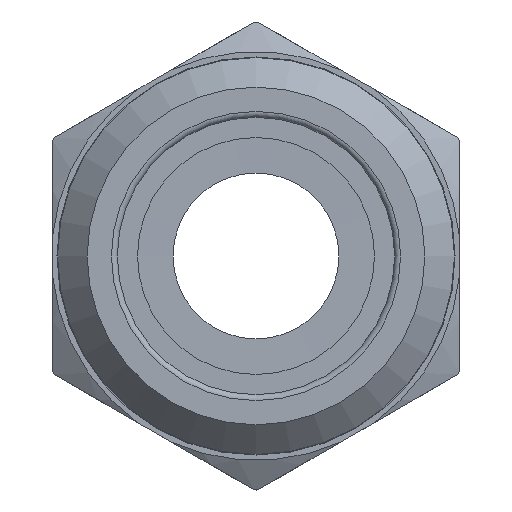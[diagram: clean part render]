
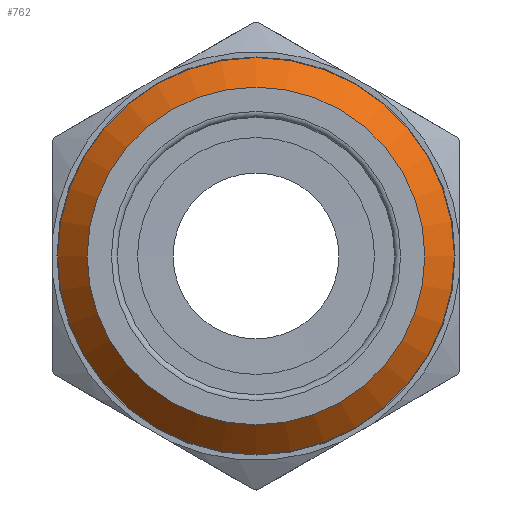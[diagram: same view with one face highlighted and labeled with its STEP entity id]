
A CAD part, front view. The second image highlights one B-rep face of the part: STEP entity #762.
In plain terms, the highlighted conical face has half-angle 45 degrees and reference radius 7.874 mm.
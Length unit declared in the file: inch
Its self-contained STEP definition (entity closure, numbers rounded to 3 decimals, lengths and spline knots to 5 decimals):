
#95=FACE_OUTER_BOUND('',#144,.T.);
#144=EDGE_LOOP('',(#582,#583,#584,#585,#586));
#184=LINE('',#1262,#216);
#216=VECTOR('',#1027,0.31);
#269=CIRCLE('',#850,0.285);
#272=CIRCLE('',#855,0.335);
#273=CIRCLE('',#856,0.335);
#333=VERTEX_POINT('',#1252);
#336=VERTEX_POINT('',#1261);
#337=VERTEX_POINT('',#1263);
#424=EDGE_CURVE('',#333,#333,#269,.T.);
#428=EDGE_CURVE('',#333,#336,#184,.T.);
#429=EDGE_CURVE('',#336,#337,#272,.T.);
#430=EDGE_CURVE('',#337,#336,#273,.T.);
#582=ORIENTED_EDGE('',*,*,#424,.T.);
#583=ORIENTED_EDGE('',*,*,#428,.T.);
#584=ORIENTED_EDGE('',*,*,#429,.T.);
#585=ORIENTED_EDGE('',*,*,#430,.T.);
#586=ORIENTED_EDGE('',*,*,#428,.F.);
#738=CONICAL_SURFACE('',#854,0.31,0.785);
#762=ADVANCED_FACE('',(#95),#738,.T.);
#850=AXIS2_PLACEMENT_3D('',#1253,#1016,#1017);
#854=AXIS2_PLACEMENT_3D('',#1260,#1025,#1026);
#855=AXIS2_PLACEMENT_3D('',#1264,#1028,#1029);
#856=AXIS2_PLACEMENT_3D('',#1265,#1030,#1031);
#1016=DIRECTION('center_axis',(0.,1.,0.));
#1017=DIRECTION('ref_axis',(0.,0.,1.));
#1025=DIRECTION('center_axis',(0.,1.,0.));
#1026=DIRECTION('ref_axis',(0.,0.,1.));
#1027=DIRECTION('',(0.,0.707,-0.707));
#1028=DIRECTION('center_axis',(0.,-1.,0.));
#1029=DIRECTION('ref_axis',(0.,0.,1.));
#1030=DIRECTION('center_axis',(0.,-1.,0.));
#1031=DIRECTION('ref_axis',(0.,0.,1.));
#1252=CARTESIAN_POINT('',(0.,-0.79,-0.285));
#1253=CARTESIAN_POINT('Origin',(0.,-0.79,0.));
#1260=CARTESIAN_POINT('Origin',(0.,-0.765,0.));
#1261=CARTESIAN_POINT('',(0.,-0.74,-0.335));
#1262=CARTESIAN_POINT('',(0.,-0.765,-0.31));
#1263=CARTESIAN_POINT('',(0.,-0.74,0.335));
#1264=CARTESIAN_POINT('Origin',(0.,-0.74,0.));
#1265=CARTESIAN_POINT('Origin',(0.,-0.74,0.));
